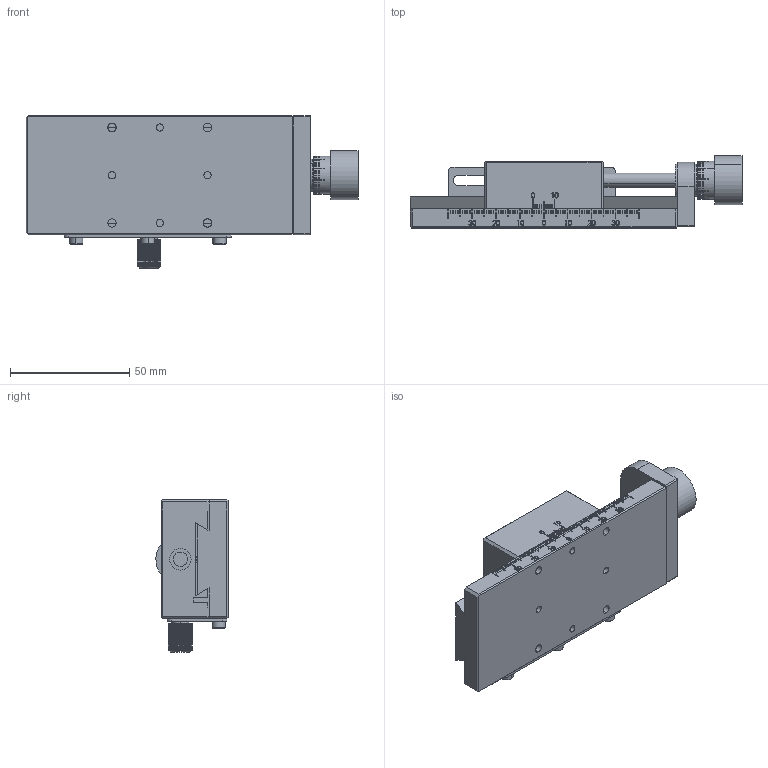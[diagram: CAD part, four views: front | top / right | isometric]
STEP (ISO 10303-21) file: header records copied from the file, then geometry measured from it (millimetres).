
FILE_DESCRIPTION (( 'STEP AP203' ), '1' );
FILE_NAME ('MF0605-119-R.STEP', '2021-08-04T08:35:28', ( '' ), ( '' ), 'SwSTEP 2.0', 'SolidWorks 2020', '' );
FILE_SCHEMA (( 'CONFIG_CONTROL_DESIGN' ));
Length unit declared in the file: millimetre
Products named in the file (3): MF0605-119-R-M_B; MF0605-119-R; MF0605-119-R-M_A
Assembly tree (2 placements, depth 2):
  MF0605-119-R
    MF0605-119-R-M_A
    MF0605-119-R-M_B
Bounding box: 139 x 30.25 x 64 mm (x, y, z)
Volume: 115851.7 mm3; surface area: 39278.9 mm2
Topology: 2 solids, 17 shells, 1321 faces, 3607 edges, 2355 vertices
Faces by surface type: plane 933, cylinder 207, bspline 121, cone 60
Entity records: 50190 total; most frequent: CARTESIAN_POINT 17081, ORIENTED_EDGE 7146, DIRECTION 6217, EDGE_CURVE 3573, LINE 2631, VECTOR 2631, VERTEX_POINT 2355, AXIS2_PLACEMENT_3D 1793
